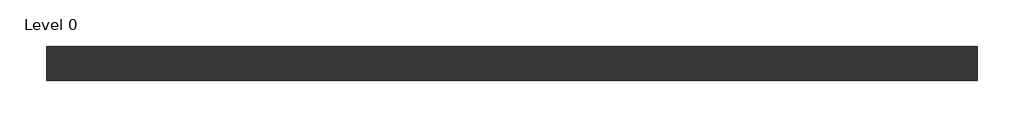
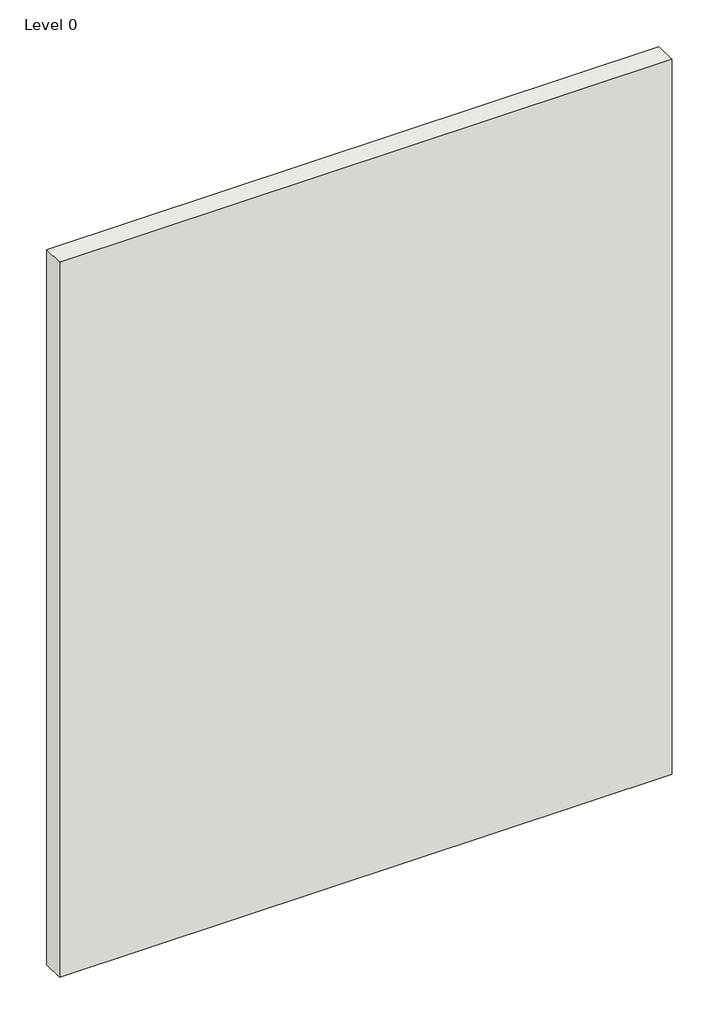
# One storey: 1 wall.
"""IFC4 building model written with IfcOpenShell, lengths in millimetres."""

import ifcopenshell
import ifcopenshell.guid

model = None  # the IFC model being written
_history = None  # IfcOwnerHistory: only IFC2X3 demands one
_inside = {}  # id of a spatial element -> (the spatial element, [elements in it])
_under = {}  # id of a project, library or spatial element -> (it, [spatial elements below it])
_declared = {}  # id of a project -> (the project, [libraries it declares])
_typed = {}  # id of a type object -> (the type object, [elements of that type])
_made_of = {}  # id of a material, layer set ... -> (it, [elements and type objects made of it])


def new_model(schema):
    """Start an empty IFC model of exactly this schema.

    Asked for "IFC4X3", IfcOpenShell would pick the latest addendum, in which some entities
    have other attributes; the version numbers below select the first issue.
    IFC2X3 requires an IfcOwnerHistory on every rooted entity: one is made here for all.
    """
    global model, _history
    if schema == "IFC4X3":
        model = ifcopenshell.file(schema_version=(4, 3, 0, 0))
    else:
        model = ifcopenshell.file(schema=schema)
    _inside.clear()
    _under.clear()
    _declared.clear()
    _typed.clear()
    _made_of.clear()
    _history = None
    if model.schema == "IFC2X3":
        org = make("IfcOrganization", Name="unknown")
        user = make(
            "IfcPersonAndOrganization",
            ThePerson=make("IfcPerson", FamilyName="unknown"),
            TheOrganization=org,
        )
        app = make(
            "IfcApplication",
            ApplicationDeveloper=org,
            Version="unknown",
            ApplicationFullName="unknown",
            ApplicationIdentifier="unknown",
        )
        _history = make(
            "IfcOwnerHistory",
            OwningUser=user,
            OwningApplication=app,
            ChangeAction="ADDED",
            CreationDate=0,
        )
    return model


def make(cls, **values):
    """One entity of the class cls with the attributes given. An attribute that is None is left unset."""
    return model.create_entity(
        cls, **{name: value for name, value in values.items() if value is not None}
    )


def rooted(cls, **values):
    """An entity with a GlobalId (a new one), such as an element, a storey or a relation."""
    return make(cls, GlobalId=ifcopenshell.guid.new(), OwnerHistory=_history, **values)


def si_unit(unit_type, name, prefix=None):
    """IfcSIUnit, for example si_unit("LENGTHUNIT", "METRE", prefix="MILLI")."""
    return make("IfcSIUnit", UnitType=unit_type, Prefix=prefix, Name=name)


def assignment(units):
    """IfcUnitAssignment: the units of a project."""
    return None if units is None else make("IfcUnitAssignment", Units=units)


def point(xyz):
    """IfcCartesianPoint."""
    return None if xyz is None else make("IfcCartesianPoint", Coordinates=xyz)


def direction(xyz):
    """IfcDirection."""
    return None if xyz is None else make("IfcDirection", DirectionRatios=xyz)


def frame(location, z_axis=None, x_axis=None):
    """IfcAxis2Placement3D, a coordinate frame: its origin and axes. An axis left out is left unset."""
    return make(
        "IfcAxis2Placement3D",
        Location=point(location),
        Axis=direction(z_axis),
        RefDirection=direction(x_axis),
    )


def origin():
    """The frame at (0, 0, 0) with its axes left unset."""
    return frame((0.0, 0.0, 0.0))


def origin_with_axes():
    """The frame at (0, 0, 0) with the z axis (0, 0, 1) and the x axis (1, 0, 0) written out."""
    return frame((0.0, 0.0, 0.0), z_axis=(0.0, 0.0, 1.0), x_axis=(1.0, 0.0, 0.0))


def place(relative_to, where):
    """IfcLocalPlacement: puts the frame where relative to a parent placement (None: the world)."""
    return make(
        "IfcLocalPlacement", PlacementRelTo=relative_to, RelativePlacement=where
    )


def context(
    kind, dimensions, precision=None, world=None, true_north=None, identifier=None
):
    """IfcGeometricRepresentationContext, for example the 3D "Model" context."""
    return make(
        "IfcGeometricRepresentationContext",
        ContextIdentifier=identifier,
        ContextType=kind,
        CoordinateSpaceDimension=dimensions,
        Precision=precision,
        WorldCoordinateSystem=world,
        TrueNorth=true_north,
    )


def project(units=None, contexts=None):
    """IfcProject with its units and contexts."""
    return rooted(
        "IfcProject",
        Name="project",
        RepresentationContexts=contexts,
        UnitsInContext=assignment(units),
    )


def spatial(cls, under=None, at=None, **own):
    """A site, building, storey or space (cls), placed at a placement, below another one or the project."""
    s = rooted(cls, ObjectPlacement=at, **own)
    if under is not None:
        _under.setdefault(under.id(), (under, []))[1].append(s)
    return s


def polyline(points):
    """IfcPolyline through the points."""
    return make("IfcPolyline", Points=[point(p) for p in points])


def outline(outer, holes=None, kind="AREA"):
    """IfcArbitraryClosedProfileDef: a profile drawn as a closed curve; with holes, ...WithVoids."""
    if holes is None:
        return make("IfcArbitraryClosedProfileDef", ProfileType=kind, OuterCurve=outer)
    return make(
        "IfcArbitraryProfileDefWithVoids",
        ProfileType=kind,
        OuterCurve=outer,
        InnerCurves=holes,
    )


def extrude(swept, where, along, depth):
    """IfcExtrudedAreaSolid: the profile swept, set in the frame where, extruded along a direction by depth."""
    return make(
        "IfcExtrudedAreaSolid",
        SweptArea=swept,
        Position=where,
        ExtrudedDirection=direction(along),
        Depth=depth,
    )


def shape(context_of_items, identifier, shape_type, items):
    """IfcShapeRepresentation: the items that make up one representation, for example the "Body"."""
    return make(
        "IfcShapeRepresentation",
        ContextOfItems=context_of_items,
        RepresentationIdentifier=identifier,
        RepresentationType=shape_type,
        Items=items,
    )


def made_of(thing, what):
    """Note that an element or type object is made of a material, layer set ...; save() writes the relation."""
    if what is not None:
        _made_of.setdefault(what.id(), (what, []))[1].append(thing)
    return thing


def element(
    cls,
    number,
    at=None,
    inside=None,
    cuts=None,
    type_object=None,
    material=None,
    context=None,
    identifier="Body",
    shape_type=None,
    held_by="IfcProductDefinitionShape",
    body=None,
    shapes=None,
    **own,
):
    """One element of the class cls, such as IfcWall. Its Tag is "e" and its number.

    at: its placement. inside: the storey or other place that contains it. cuts: it is an
    opening in that element (IfcRelVoidsElement). A single representation is given by context,
    identifier, shape_type and body (its items); several are given by shapes. held_by: the class
    of the entity that holds the representations. save() writes the other relations.
    """
    e = rooted(cls, Tag="e%d" % number, ObjectPlacement=at, **own)
    if body is not None:
        shapes = [shape(context, identifier, shape_type, body)]
    if shapes is not None:
        e.Representation = make(held_by, Representations=shapes)
    if inside is not None:
        _inside.setdefault(inside.id(), (inside, []))[1].append(e)
    if cuts is not None:
        rooted(
            "IfcRelVoidsElement", RelatingBuildingElement=cuts, RelatedOpeningElement=e
        )
    if type_object is not None:
        _typed.setdefault(type_object.id(), (type_object, []))[1].append(e)
    return made_of(e, material)


def aggregate(whole, parts):
    """IfcRelAggregates: a whole, such as a stair, and the parts it consists of."""
    return rooted("IfcRelAggregates", RelatingObject=whole, RelatedObjects=parts)


def save(model, path):
    """Write the relations noted so far, then the file.

    IfcRelAggregates (storeys below a building ...), IfcRelContainedInSpatialStructure (elements
    in a storey), IfcRelDefinesByType, IfcRelAssociatesMaterial and IfcRelDeclares: one each for
    every whole, place, type object, material and project.
    """
    for whole, parts in _under.values():
        aggregate(whole, parts)
    for where, things in _inside.values():
        rooted(
            "IfcRelContainedInSpatialStructure",
            RelatedElements=things,
            RelatingStructure=where,
        )
    for kind, things in _typed.values():
        rooted("IfcRelDefinesByType", RelatedObjects=things, RelatingType=kind)
    for what, things in _made_of.values():
        rooted("IfcRelAssociatesMaterial", RelatedObjects=things, RelatingMaterial=what)
    for by, libraries in _declared.values():
        rooted("IfcRelDeclares", RelatingContext=by, RelatedDefinitions=libraries)
    model.write(path)


model = new_model("IFC4")

# Units and contexts
model_context = context("Model", 3, world=origin())
ifc_project = project(units=[si_unit("LENGTHUNIT", "METRE", prefix="MILLI")], contexts=[model_context])

# Site, building, storey
site = spatial("IfcSite", under=ifc_project)
building = spatial("IfcBuilding", under=site)
storey = spatial("IfcBuildingStorey", under=building, Name="Level 0", Elevation=0.0)

# Wall
placement = place(None, origin())
element("IfcWall", 1, ObjectType="A206155 - GypWall CLASSIC", at=placement, inside=storey, context=model_context, shape_type="SweptSolid", body=[
    extrude(outline(polyline([(2217.4578033, 538.7205641), (-782.5421967, 538.7205641), (-782.5421967, 648.7205641), (2217.4578033, 648.7205641), (2217.4578033, 538.7205641)])), origin_with_axes(), (0.0, 0.0, 1.0), 3700.0),
])

save(model, "model.ifc")
